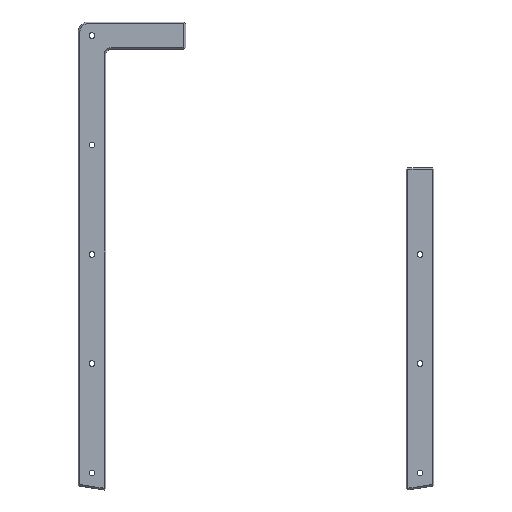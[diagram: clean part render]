
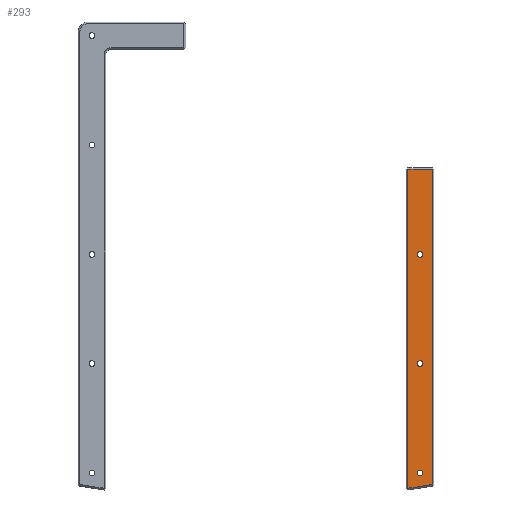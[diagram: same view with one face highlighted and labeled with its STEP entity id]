
A CAD part, left-side view. The second image highlights one B-rep face of the part: STEP entity #293.
In plain terms, the highlighted planar face has unit normal (-1, 0, 0).
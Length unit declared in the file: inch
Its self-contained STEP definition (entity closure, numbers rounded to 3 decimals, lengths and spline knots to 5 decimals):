
#9 = VERTEX_POINT ( 'NONE', #1523 ) ;
#14 = VECTOR ( 'NONE', #390, 39.37008 ) ;
#18 = CIRCLE ( 'NONE', #366, 0.05325 ) ;
#32 = DIRECTION ( 'NONE',  ( 0., 0., -1. ) ) ;
#41 = DIRECTION ( 'NONE',  ( 1., 0., 0. ) ) ;
#44 = DIRECTION ( 'NONE',  ( 1., 0., 0. ) ) ;
#62 = DIRECTION ( 'NONE',  ( 0., 0., -1. ) ) ;
#91 = ORIENTED_EDGE ( 'NONE', *, *, #355, .T. ) ;
#95 = VECTOR ( 'NONE', #1077, 39.37008 ) ;
#104 = EDGE_CURVE ( 'NONE', #780, #1039, #1243, .T. ) ;
#105 = VERTEX_POINT ( 'NONE', #260 ) ;
#106 = ORIENTED_EDGE ( 'NONE', *, *, #1475, .T. ) ;
#108 = EDGE_LOOP ( 'NONE', ( #91, #583 ) ) ;
#126 = CARTESIAN_POINT ( 'NONE',  ( 0., -2.25714, -8.24058 ) ) ;
#132 = VERTEX_POINT ( 'NONE', #513 ) ;
#199 = EDGE_LOOP ( 'NONE', ( #651, #962, #106, #918 ) ) ;
#200 = CARTESIAN_POINT ( 'NONE',  ( 0., -2.01184, -4.03421 ) ) ;
#215 = CARTESIAN_POINT ( 'NONE',  ( 0., -2.01184, -8.03421 ) ) ;
#217 = CARTESIAN_POINT ( 'NONE',  ( 0., -2.23184, -2.47791 ) ) ;
#228 = CIRCLE ( 'NONE', #1273, 0.05325 ) ;
#234 = CARTESIAN_POINT ( 'NONE',  ( 0., -2.01184, -6.08746 ) ) ;
#244 = FACE_BOUND ( 'NONE', #1398, .T. ) ;
#253 = VERTEX_POINT ( 'NONE', #1058 ) ;
#260 = CARTESIAN_POINT ( 'NONE',  ( 0., -1.79184, -2.47791 ) ) ;
#293 = ADVANCED_FACE ( 'NONE', ( #1461, #492, #1134, #244 ), #1570, .T. ) ;
#303 = CARTESIAN_POINT ( 'NONE',  ( 0., -2.01184, -4.08746 ) ) ;
#310 = CARTESIAN_POINT ( 'NONE',  ( 0., -1.79184, -8.31431 ) ) ;
#325 = LINE ( 'NONE', #820, #95 ) ;
#354 = LINE ( 'NONE', #1416, #747 ) ;
#355 = EDGE_CURVE ( 'NONE', #9, #132, #634, .T. ) ;
#366 = AXIS2_PLACEMENT_3D ( 'NONE', #1211, #686, #1576 ) ;
#386 = AXIS2_PLACEMENT_3D ( 'NONE', #683, #41, #945 ) ;
#390 = DIRECTION ( 'NONE',  ( 0., 1., 0. ) ) ;
#435 = VECTOR ( 'NONE', #1029, 39.37008 ) ;
#444 = ORIENTED_EDGE ( 'NONE', *, *, #1505, .T. ) ;
#490 = CIRCLE ( 'NONE', #386, 0.05325 ) ;
#492 = FACE_BOUND ( 'NONE', #864, .T. ) ;
#502 = LINE ( 'NONE', #1021, #14 ) ;
#513 = CARTESIAN_POINT ( 'NONE',  ( 0., -2.01184, -8.08746 ) ) ;
#514 = EDGE_CURVE ( 'NONE', #1411, #1262, #1093, .T. ) ;
#549 = CARTESIAN_POINT ( 'NONE',  ( 0., -2.01184, -6.03421 ) ) ;
#561 = CARTESIAN_POINT ( 'NONE',  ( 0., -2.01184, -8.03421 ) ) ;
#563 = ORIENTED_EDGE ( 'NONE', *, *, #635, .T. ) ;
#578 = DIRECTION ( 'NONE',  ( 1., 0., 0. ) ) ;
#579 = EDGE_CURVE ( 'NONE', #1039, #1642, #354, .T. ) ;
#583 = ORIENTED_EDGE ( 'NONE', *, *, #746, .T. ) ;
#633 = AXIS2_PLACEMENT_3D ( 'NONE', #200, #44, #62 ) ;
#634 = CIRCLE ( 'NONE', #817, 0.05325 ) ;
#635 = EDGE_CURVE ( 'NONE', #253, #1453, #490, .T. ) ;
#651 = ORIENTED_EDGE ( 'NONE', *, *, #579, .T. ) ;
#654 = EDGE_CURVE ( 'NONE', #1262, #1411, #18, .T. ) ;
#664 = DIRECTION ( 'NONE',  ( 1., 0., 0. ) ) ;
#683 = CARTESIAN_POINT ( 'NONE',  ( 0., -2.01184, -4.03421 ) ) ;
#686 = DIRECTION ( 'NONE',  ( 1., 0., 0. ) ) ;
#700 = DIRECTION ( 'NONE',  ( 0., 0., -1. ) ) ;
#746 = EDGE_CURVE ( 'NONE', #132, #9, #228, .T. ) ;
#747 = VECTOR ( 'NONE', #1052, 39.37008 ) ;
#780 = VERTEX_POINT ( 'NONE', #310 ) ;
#817 = AXIS2_PLACEMENT_3D ( 'NONE', #215, #1119, #1392 ) ;
#820 = CARTESIAN_POINT ( 'NONE',  ( 0., -1.79184, -8.34944 ) ) ;
#864 = EDGE_LOOP ( 'NONE', ( #563, #444 ) ) ;
#895 = CARTESIAN_POINT ( 'NONE',  ( 0., -2.01184, -5.98096 ) ) ;
#918 = ORIENTED_EDGE ( 'NONE', *, *, #104, .T. ) ;
#945 = DIRECTION ( 'NONE',  ( 0., 0., -1. ) ) ;
#962 = ORIENTED_EDGE ( 'NONE', *, *, #1420, .T. ) ;
#1021 = CARTESIAN_POINT ( 'NONE',  ( 0., -1.79184, -2.47791 ) ) ;
#1029 = DIRECTION ( 'NONE',  ( 0., -0.988, 0.157 ) ) ;
#1039 = VERTEX_POINT ( 'NONE', #1099 ) ;
#1052 = DIRECTION ( 'NONE',  ( 0., 0., 1. ) ) ;
#1058 = CARTESIAN_POINT ( 'NONE',  ( 0., -2.01184, -3.98096 ) ) ;
#1077 = DIRECTION ( 'NONE',  ( 0., 0., -1. ) ) ;
#1093 = CIRCLE ( 'NONE', #1391, 0.05325 ) ;
#1099 = CARTESIAN_POINT ( 'NONE',  ( 0., -2.23184, -8.24459 ) ) ;
#1107 = CARTESIAN_POINT ( 'NONE',  ( 0., 4.06516, 0.04179 ) ) ;
#1119 = DIRECTION ( 'NONE',  ( 1., 0., 0. ) ) ;
#1134 = FACE_BOUND ( 'NONE', #108, .T. ) ;
#1202 = AXIS2_PLACEMENT_3D ( 'NONE', #1107, #1329, #1598 ) ;
#1211 = CARTESIAN_POINT ( 'NONE',  ( 0., -2.01184, -6.03421 ) ) ;
#1243 = LINE ( 'NONE', #126, #435 ) ;
#1262 = VERTEX_POINT ( 'NONE', #234 ) ;
#1273 = AXIS2_PLACEMENT_3D ( 'NONE', #561, #578, #700 ) ;
#1301 = ORIENTED_EDGE ( 'NONE', *, *, #654, .T. ) ;
#1329 = DIRECTION ( 'NONE',  ( -1., 0., 0. ) ) ;
#1391 = AXIS2_PLACEMENT_3D ( 'NONE', #549, #664, #32 ) ;
#1392 = DIRECTION ( 'NONE',  ( 0., 0., -1. ) ) ;
#1398 = EDGE_LOOP ( 'NONE', ( #1409, #1301 ) ) ;
#1409 = ORIENTED_EDGE ( 'NONE', *, *, #514, .T. ) ;
#1411 = VERTEX_POINT ( 'NONE', #895 ) ;
#1416 = CARTESIAN_POINT ( 'NONE',  ( 0., -2.23184, 0.04179 ) ) ;
#1420 = EDGE_CURVE ( 'NONE', #1642, #105, #502, .T. ) ;
#1453 = VERTEX_POINT ( 'NONE', #303 ) ;
#1461 = FACE_OUTER_BOUND ( 'NONE', #199, .T. ) ;
#1475 = EDGE_CURVE ( 'NONE', #105, #780, #325, .T. ) ;
#1505 = EDGE_CURVE ( 'NONE', #1453, #253, #1594, .T. ) ;
#1523 = CARTESIAN_POINT ( 'NONE',  ( 0., -2.01184, -7.98096 ) ) ;
#1570 = PLANE ( 'NONE',  #1202 ) ;
#1576 = DIRECTION ( 'NONE',  ( 0., 0., -1. ) ) ;
#1594 = CIRCLE ( 'NONE', #633, 0.05325 ) ;
#1598 = DIRECTION ( 'NONE',  ( 0., 0., 1. ) ) ;
#1642 = VERTEX_POINT ( 'NONE', #217 ) ;
